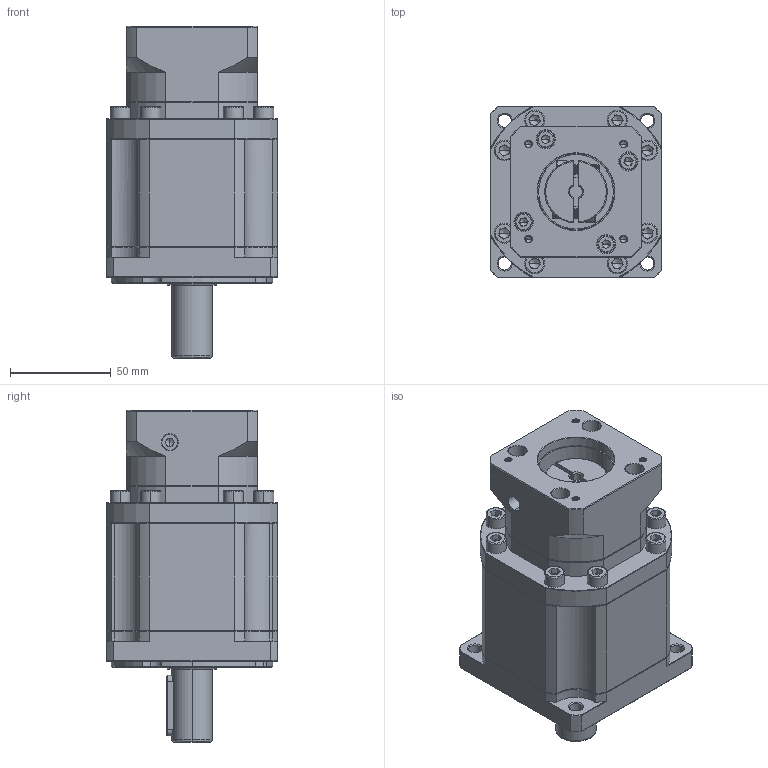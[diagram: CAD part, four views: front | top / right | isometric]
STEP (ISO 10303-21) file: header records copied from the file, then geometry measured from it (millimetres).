
FILE_DESCRIPTION (( 'STEP AP214' ), '1' );
FILE_NAME ('ZB090-D20-L3-P2-6.35-38.1-47.14X47.14-M4.step', '2023-08-18T13:35:09', ( '' ), ( '' ), 'SwSTEP 2.0', 'SolidWorks 2016', '' );
FILE_SCHEMA (( 'AUTOMOTIVE_DESIGN' ));
Length unit declared in the file: millimetre
Products named in the file (1): ZB090-D20-L3-P2-6.35-38.1-47.14X47.14-M4
Bounding box: 85 x 85 x 164.5 mm (x, y, z)
Volume: 669494.1 mm3; surface area: 82235.8 mm2
Topology: 6 solids, 6 shells, 2351 faces, 6251 edges, 3996 vertices
Faces by surface type: plane 1185, bspline 426, cylinder 394, cone 324, torus 22
Entity records: 123142 total; most frequent: CARTESIAN_POINT 42166, ORIENTED_EDGE 12410, DIRECTION 9899, EDGE_CURVE 6205, VERTEX_POINT 3996, VECTOR 3927, LINE 3927, AXIS2_PLACEMENT_3D 2986
